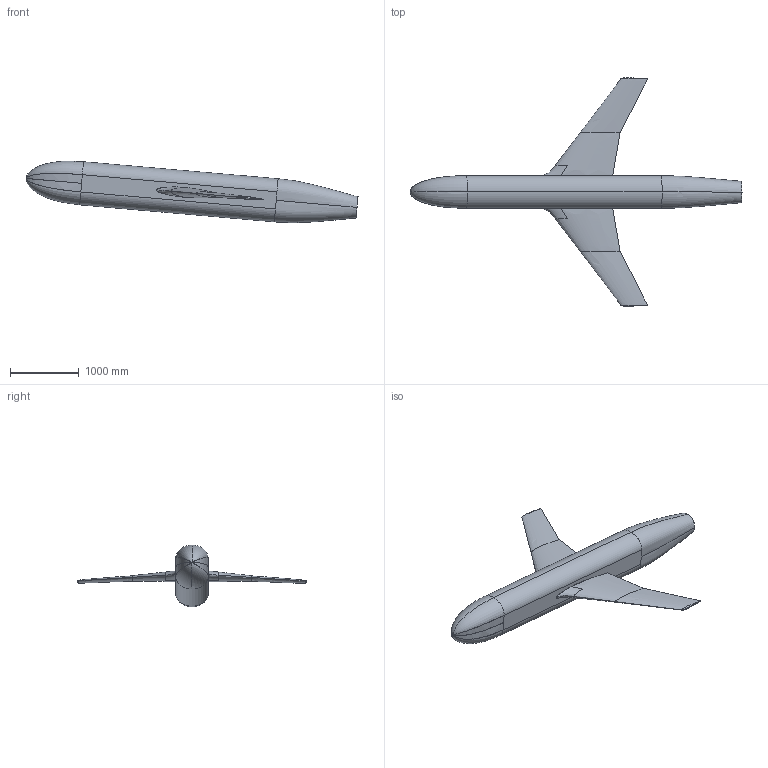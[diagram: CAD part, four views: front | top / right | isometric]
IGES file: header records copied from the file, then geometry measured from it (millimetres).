
Global section: file name: Z:\prj6.0\JFM_2018\outgoing\2022_scanned_data_JFM_0015_w_horn\2022 scans\model in tunnel at 5 deg mod\jfm_0015_based_wHorn_harrison_fuselage_2017_02_06_fullspan-5deg_in_tunnel_mod.igs; native system: NX V10.0; preprocessor: SIEMENS PLM Software NX 10.0; date: 20220822.141308; units: millimetre
Bounding box: 4834.38 x 3325.92 x 895.29 mm (x, y, z)
Surface area: 11766148.3 mm2 (no closed solid volume)
Topology: 0 solids, 0 shells, 41 faces, 281 edges, 273 vertices
Faces by surface type: bspline 41
